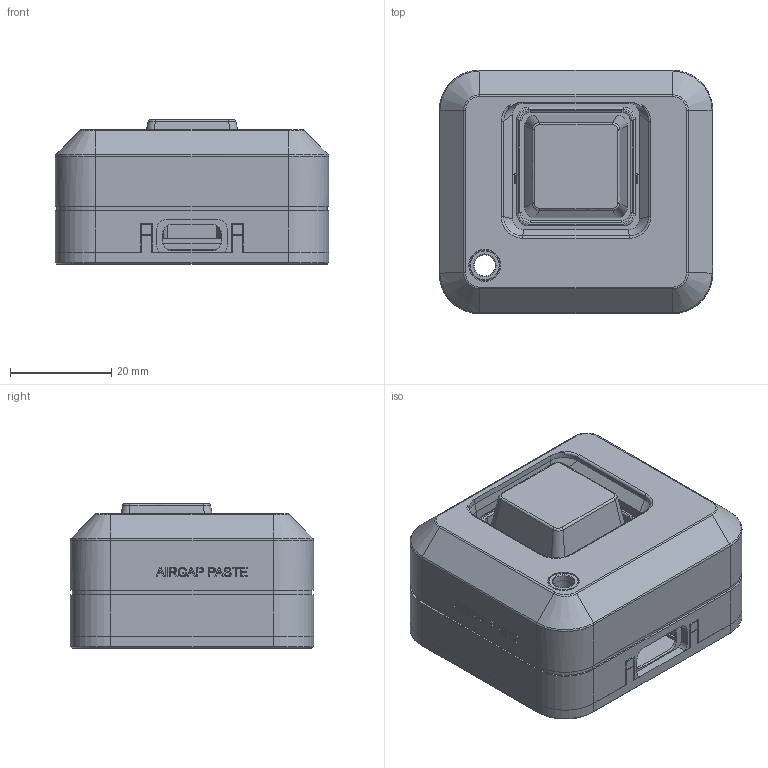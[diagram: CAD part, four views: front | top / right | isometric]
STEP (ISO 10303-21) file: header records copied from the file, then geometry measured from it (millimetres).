
FILE_DESCRIPTION(('Open CASCADE Model'),'2;1');
FILE_NAME('Open CASCADE Shape Model','2026-10-06T21:38:26',('Author'),( 'Open CASCADE'),'Open CASCADE STEP processor 7.9','Open CASCADE 7.9' ,'Unknown');
FILE_SCHEMA(('AUTOMOTIVE_DESIGN { 1 0 10303 214 1 1 1 1 }'));
Length unit declared in the file: millimetre
Products named in the file (10): AirGap_Paste_Pocket_Recess; 01_shell; 02_base; 03_keycap; 04_halo; 09_eye_bushing; 05_mx_plate; 07_xiao_wedge; 06_lightguide_left; 06_lightguide_right
Assembly tree (9 placements, depth 2):
  AirGap_Paste_Pocket_Recess
    01_shell
    02_base
    03_keycap
    04_halo
    09_eye_bushing
    05_mx_plate
    07_xiao_wedge
    06_lightguide_left
    06_lightguide_right
Bounding box: 54 x 48 x 28.6 mm (x, y, z)
Volume: 25743.5 mm3; surface area: 28846.3 mm2
Topology: 9 solids, 9 shells, 826 faces, 2177 edges, 1411 vertices
Faces by surface type: plane 490, cylinder 102, bspline 102, extrusion 100, torus 18, cone 14
Full cylindrical faces by diameter (mm): 3.4 x6, 4.2 x3, 5.3 x1, 6 x1, 6.3 x1, 8.6 x1
Entity records: 55561 total; most frequent: CARTESIAN_POINT 15189, DIRECTION 6127, ORIENTED_EDGE 4354, PCURVE 4354, DEFINITIONAL_REPRESENTATION 4354, VECTOR 4229, LINE 4129, EDGE_CURVE 2177
